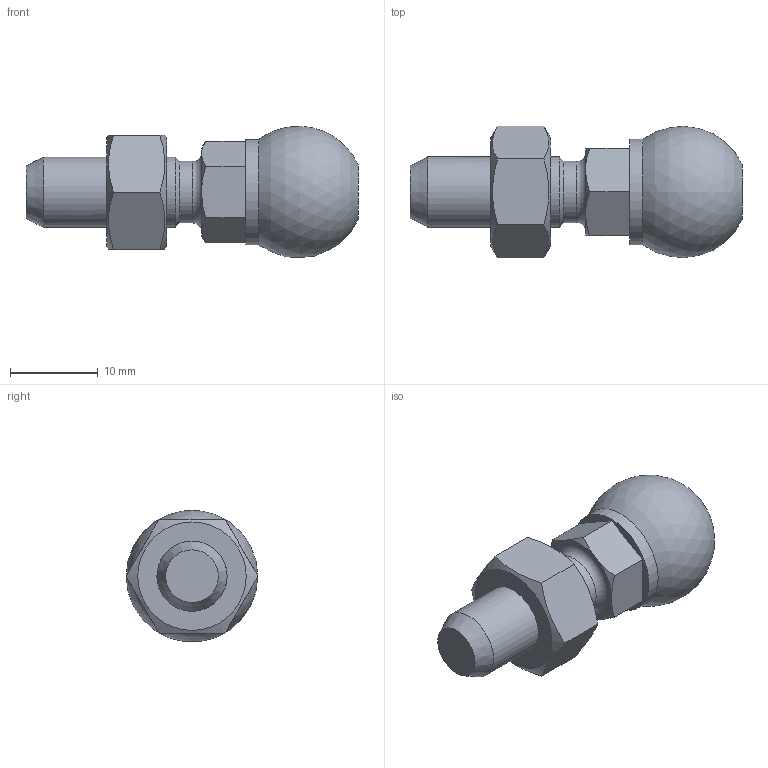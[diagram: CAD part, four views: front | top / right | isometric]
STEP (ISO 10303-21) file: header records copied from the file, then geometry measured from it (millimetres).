
FILE_DESCRIPTION(('STEP AP203'), '1');
FILE_NAME('A00020.108040', '', ('UNSPECIFIED'), ('UNSPECIFIED'), 'C3D Converter', 'C3D Toolkit', '');
FILE_SCHEMA(('CONFIG_CONTROL_DESIGN'));
Length unit declared in the file: millimetre
Products named in the file (2): A00020.108040
Assembly tree (1 placements, depth 2):
  A00020.108040
    (unnamed)
Bounding box: 37.8 x 15.01 x 14.92 mm (x, y, z)
Volume: 3865.3 mm3; surface area: 2010.9 mm2
Topology: 2 solids, 2 shells, 36 faces, 88 edges, 58 vertices
Faces by surface type: plane 18, cone 12, cylinder 4, torus 1, sphere 1
Full cylindrical faces by diameter (mm): 6.647 x1, 7 x1, 8 x1, 12 x1
Entity records: 2163 total; most frequent: CARTESIAN_POINT 994, DIRECTION 158, ORIENTED_EDGE 152, EDGE_CURVE 76, AXIS2_PLACEMENT_3D 70, VERTEX_POINT 58, EDGE_LOOP 52, FACE_BOUND 41
